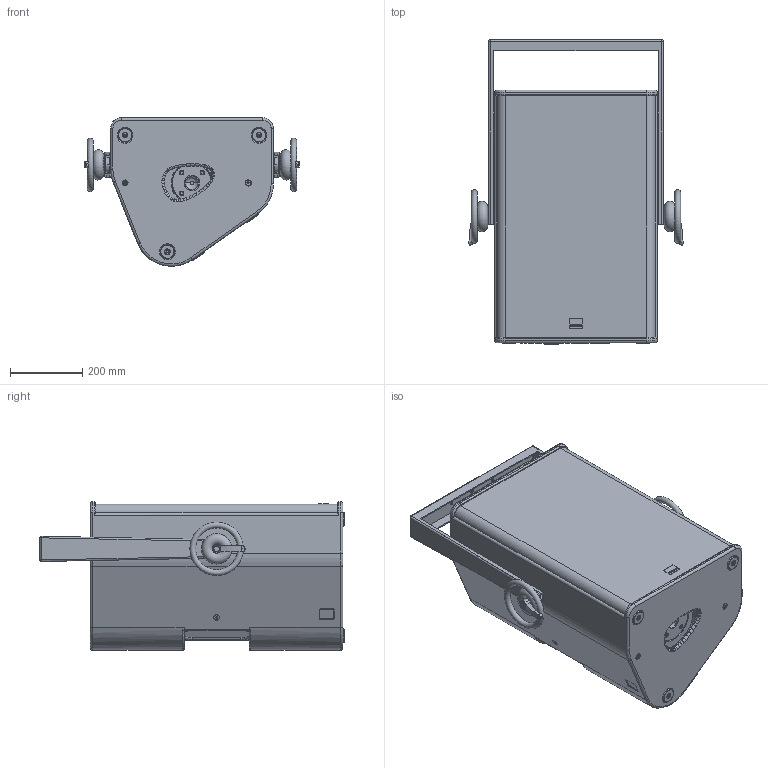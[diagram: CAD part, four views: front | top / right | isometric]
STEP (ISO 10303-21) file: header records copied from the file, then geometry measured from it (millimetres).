
FILE_DESCRIPTION (( 'STEP AP203' ), '1' );
FILE_NAME ('Seeburg_TSM15_Bracket_ver.STEP', '2012-10-17T11:46:25', ( 'Fabian' ), ( '' ), 'SwSTEP 2.0', 'SolidWorks 2009', '' );
FILE_SCHEMA (( 'CONFIG_CONTROL_DESIGN' ));
Products named in the file (2): TSM15_Bracket-ver; Seeburg_TSM15_Bracket_ver
Assembly tree (1 placements, depth 2):
  Seeburg_TSM15_Bracket_ver
    TSM15_Bracket-ver
Bounding box: 591.25 x 840 x 409.91 mm (x, y, z)
Volume: 22955564 mm3; surface area: 3281451.1 mm2
Topology: 32 solids, 32 shells, 1226 faces, 2950 edges, 1823 vertices
Faces by surface type: cylinder 610, plane 426, torus 98, cone 79, bspline 8, sphere 5
Entity records: 44069 total; most frequent: CARTESIAN_POINT 15658, DIRECTION 5877, ORIENTED_EDGE 5856, EDGE_CURVE 2928, AXIS2_PLACEMENT_3D 2146, VERTEX_POINT 1813, VECTOR 1585, LINE 1585
